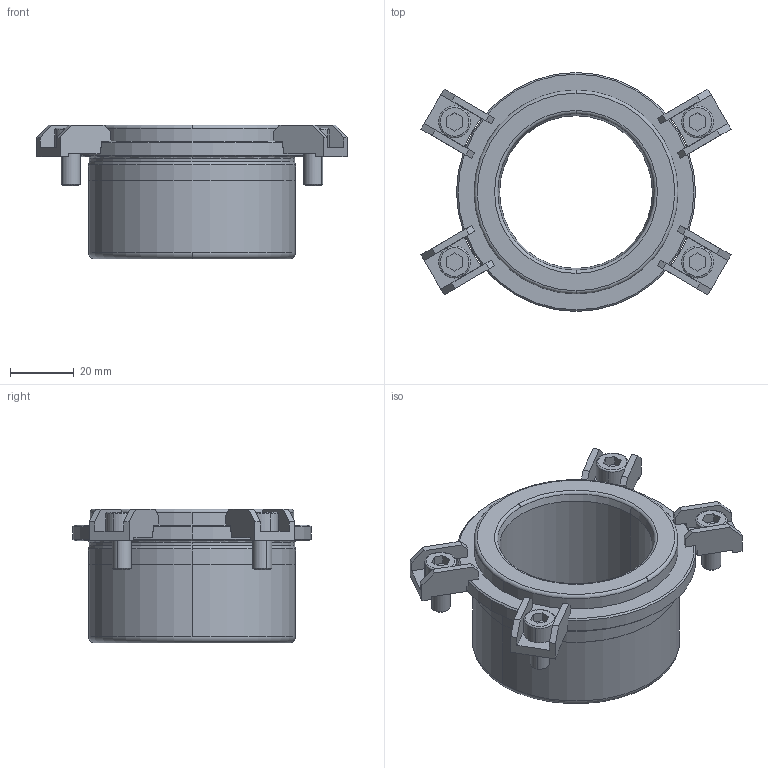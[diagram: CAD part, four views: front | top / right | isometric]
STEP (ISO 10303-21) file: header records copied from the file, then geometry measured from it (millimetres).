
FILE_DESCRIPTION((''),'2;1');
FILE_NAME('B42_040_032.stp','2008-11-04T14:35:25',(''),(''),'Mechanical Desktop 2009','Mechanical Desktop 2009',', , ');
FILE_SCHEMA(('CONFIG_CONTROL_DESIGN'));
Length unit declared in the file: millimetre
Products named in the file (2): Product; blmdl1
Assembly tree (1 placements, depth 2):
  Product
    blmdl1
Bounding box: 97.32 x 75 x 42 mm (x, y, z)
Volume: 73950.9 mm3; surface area: 26337.1 mm2
Topology: 9 solids, 9 shells, 233 faces, 598 edges, 394 vertices
Faces by surface type: plane 137, cylinder 48, cone 20, torus 16, bspline 12
Entity records: 7707 total; most frequent: CARTESIAN_POINT 1755, DIRECTION 1258, ORIENTED_EDGE 1196, EDGE_CURVE 598, AXIS2_PLACEMENT_3D 437, VERTEX_POINT 394, VECTOR 384, LINE 384
